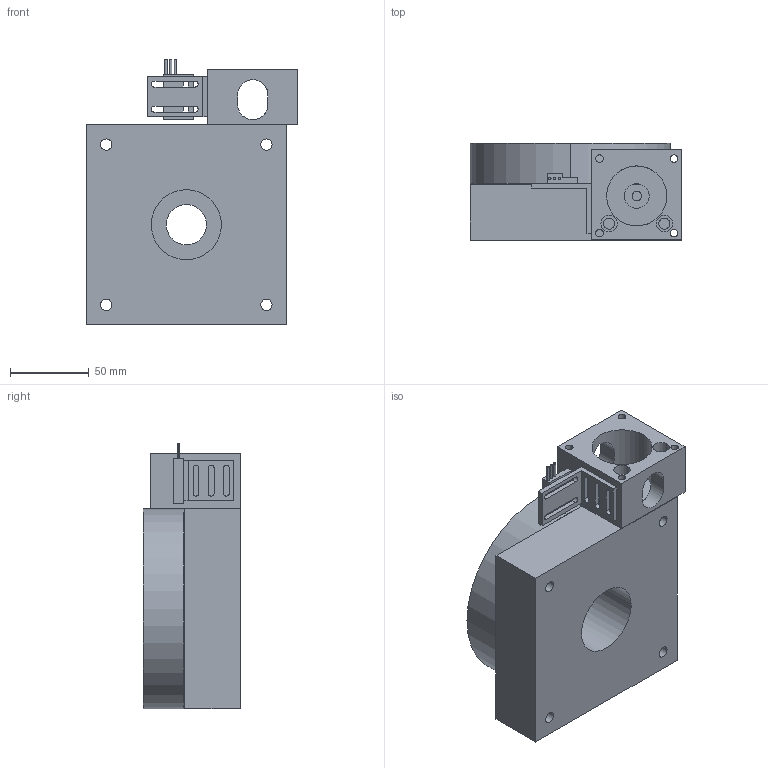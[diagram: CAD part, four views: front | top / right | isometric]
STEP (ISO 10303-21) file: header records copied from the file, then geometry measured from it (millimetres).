
FILE_DESCRIPTION((''),'2;1');
FILE_NAME('E5-ROTARY-T3_ASM','2005-02-18T',('BF20108'),(''),'PRO/ENGINEER BY PARAMETRIC TECHNOLOGY CORPORATION, 2004400','PRO/ENGINEER BY PARAMETRIC TECHNOLOGY CORPORATION, 2004400','');
FILE_SCHEMA(('CONFIG_CONTROL_DESIGN'));
Products named in the file (7): E5RO-BASE; E5RO-TOP-T3; E23-MB-02; 000-4457-SW-BRKT; 003-1145-SWITCH; ROTARY-TBL-HOME-SW_ASM; E5-ROTARY-T3_ASM
Assembly tree (6 placements, depth 3):
  E5-ROTARY-T3_ASM
    E5RO-BASE
    E5RO-TOP-T3
    E23-MB-02
    ROTARY-TBL-HOME-SW_ASM
      000-4457-SW-BRKT
      003-1145-SWITCH
Bounding box: 134.18 x 61.5 x 168.49 mm (x, y, z)
Volume: 876569.1 mm3; surface area: 124209.3 mm2
Topology: 5 solids, 5 shells, 143 faces, 370 edges, 246 vertices
Faces by surface type: cylinder 84, plane 59
Entity records: 4819 total; most frequent: CARTESIAN_POINT 850, DIRECTION 846, ORIENTED_EDGE 740, EDGE_CURVE 370, AXIS2_PLACEMENT_3D 324, VERTEX_POINT 246, EDGE_LOOP 212, VECTOR 198
